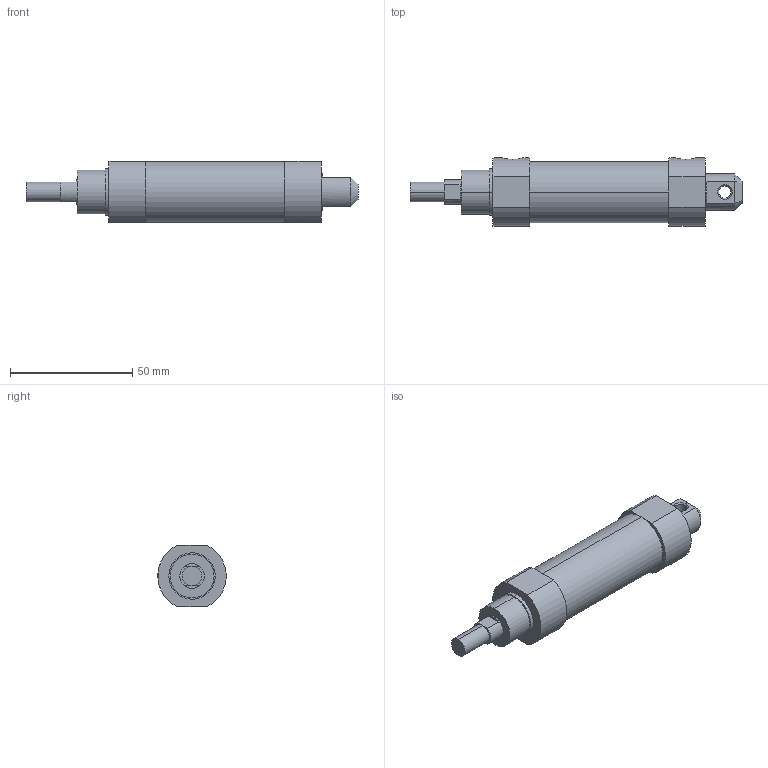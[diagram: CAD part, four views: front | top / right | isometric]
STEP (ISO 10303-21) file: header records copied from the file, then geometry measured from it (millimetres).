
FILE_DESCRIPTION (( 'STEP AP203' ), '1' );
FILE_NAME ('J#2-20-25-C.STEP', '2016-03-08T06:54:24', ( '' ), ( '' ), 'SwSTEP 2.0', 'SolidWorks 2014', '' );
FILE_SCHEMA (( 'CONFIG_CONTROL_DESIGN' ));
Length unit declared in the file: millimetre
Products named in the file (1): J#2-20-25-C
Bounding box: 136 x 27.95 x 25 mm (x, y, z)
Volume: 50679.3 mm3; surface area: 11227.9 mm2
Topology: 1 solids, 1 shells, 56 faces, 124 edges, 76 vertices
Faces by surface type: plane 28, cylinder 22, cone 6
Entity records: 1751 total; most frequent: CARTESIAN_POINT 401, DIRECTION 284, ORIENTED_EDGE 248, EDGE_CURVE 124, AXIS2_PLACEMENT_3D 111, VERTEX_POINT 76, EDGE_LOOP 64, VECTOR 62
